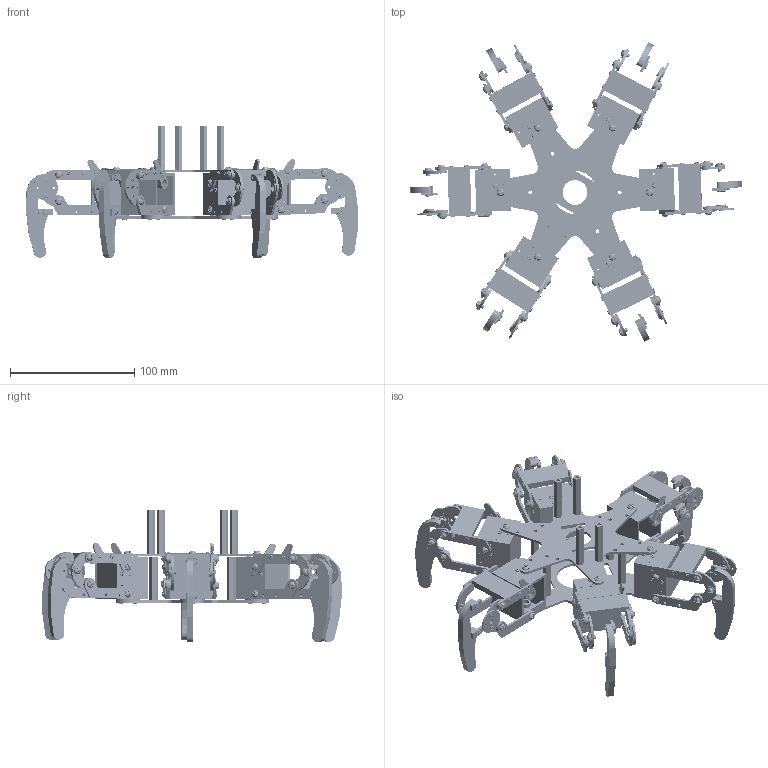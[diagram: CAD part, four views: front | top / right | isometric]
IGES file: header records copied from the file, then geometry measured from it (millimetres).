
Global section: file name: No Iges File Name specified; native system: Autodesk Inventor 2009; preprocessor: AutoDesk Inventor Iges Exporter R2009; author: wd_chen; date: 20120301.130947; units: millimetre
Bounding box: 267.28 x 241.15 x 106.16 mm (x, y, z)
Volume: 163729.3 mm3; surface area: 188574.5 mm2
Topology: 304 solids, 304 shells, 5384 faces, 13626 edges, 9084 vertices
Faces by surface type: plane 2960, cylinder 924, revolution 876, torus 384, bspline 240
